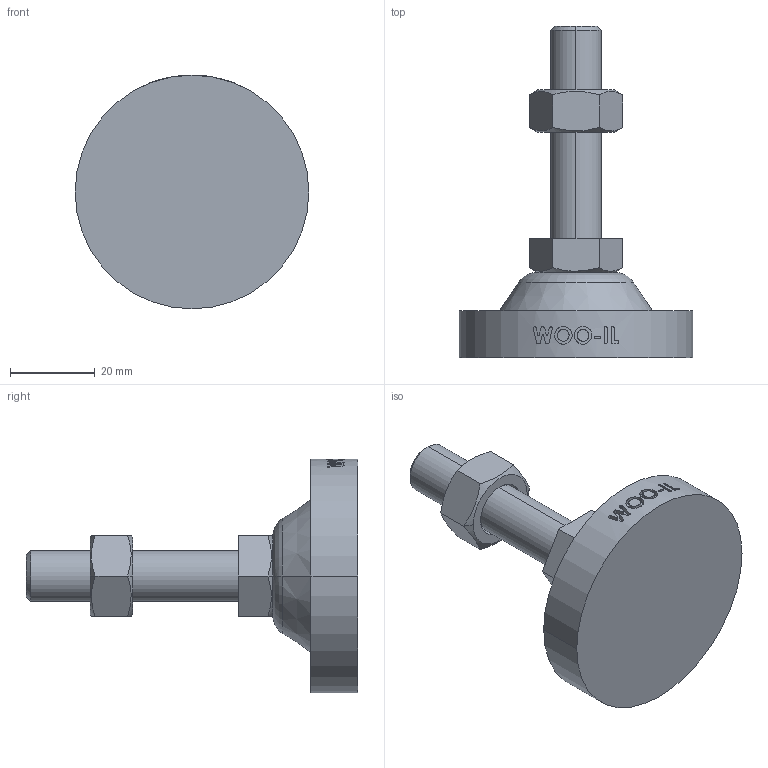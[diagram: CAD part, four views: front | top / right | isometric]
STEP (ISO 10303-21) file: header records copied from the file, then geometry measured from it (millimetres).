
FILE_DESCRIPTION (( 'STEP AP214' ), '1' );
FILE_NAME ('RB55-M12-50.step', '2021-01-18T05:49:31', ( '' ), ( '' ), 'SwSTEP 2.0', 'SolidWorks 2019', '' );
FILE_SCHEMA (( 'AUTOMOTIVE_DESIGN' ));
Length unit declared in the file: millimetre
Products named in the file (2): RB55-M12-50
Bounding box: 55 x 78 x 55 mm (x, y, z)
Volume: 39618.3 mm3; surface area: 12532 mm2
Topology: 2 solids, 3 shells, 128 faces, 317 edges, 206 vertices
Faces by surface type: plane 48, cylinder 42, bspline 18, cone 16, torus 4
Entity records: 5349 total; most frequent: CARTESIAN_POINT 2507, ORIENTED_EDGE 634, DIRECTION 479, EDGE_CURVE 317, VERTEX_POINT 206, AXIS2_PLACEMENT_3D 176, EDGE_LOOP 141, ADVANCED_FACE 128
